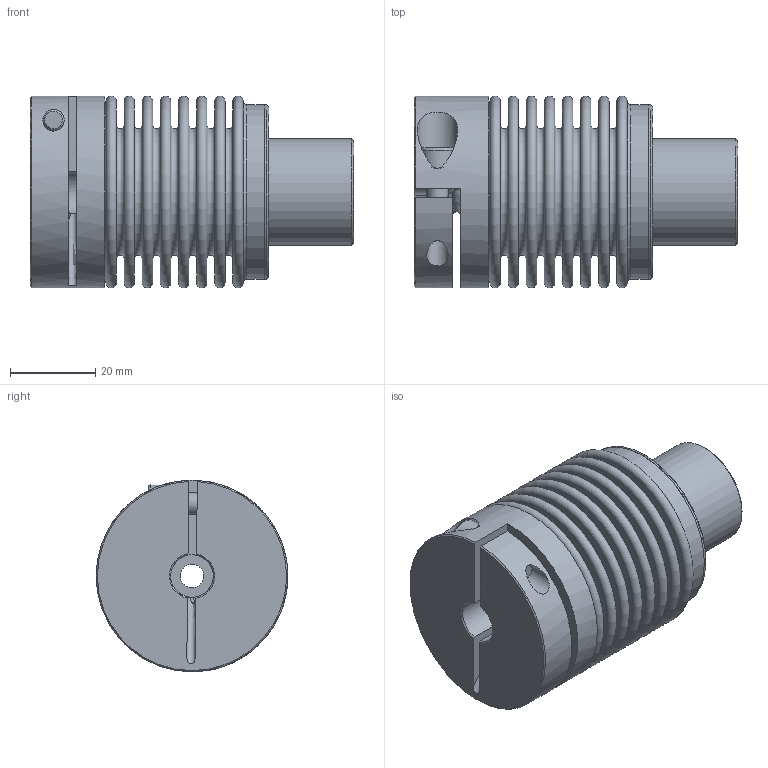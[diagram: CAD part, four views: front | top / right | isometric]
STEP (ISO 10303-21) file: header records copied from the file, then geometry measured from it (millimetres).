
FILE_DESCRIPTION( ( 'Unknown' ), '1' );
FILE_NAME( 'K:/Konstruktion/KB8/HP/KB8-18-52.stp', 'Unknown', ( 'Unknown' ), ( 'Unknown' ), 'PSStep 16.0.42', 'Unknown', ' ' );
FILE_SCHEMA( ( 'AUTOMOTIVE_DESIGN { 1 0 10303 214 1 1 1 1 }' ) );
Length unit declared in the file: millimetre
Products named in the file (5): Assem1; BL18_Standard_1; Socket Head Cap Screw_DIN_DIN 912 M5 x 16 --- 16N_1; KN18C_Standard; Spreiznabe18
Assembly tree (4 placements, depth 2):
  Assem1
    BL18_Standard_1
    Socket Head Cap Screw_DIN_DIN 912 M5 x 16 --- 16N_1
    KN18C_Standard
    Spreiznabe18
Bounding box: 76 x 45 x 45 mm (x, y, z)
Volume: 45610.6 mm3; surface area: 47026.9 mm2
Topology: 4 solids, 4 shells, 124 faces, 232 edges, 150 vertices
Faces by surface type: plane 61, torus 37, cylinder 17, cone 8, bspline 1
Full cylindrical faces by diameter (mm): 5 x2, 5.3 x1, 5.5 x1, 8.5 x1, 10 x2, 25 x1, 40.4 x3, 41 x3, 45 x1
Entity records: 4633 total; most frequent: CARTESIAN_POINT 1189, DIRECTION 522, ORIENTED_EDGE 340, AXIS2_PLACEMENT_3D 243, EDGE_LOOP 222, FACE_OUTER_BOUND 173, EDGE_CURVE 170, VERTEX_POINT 159
